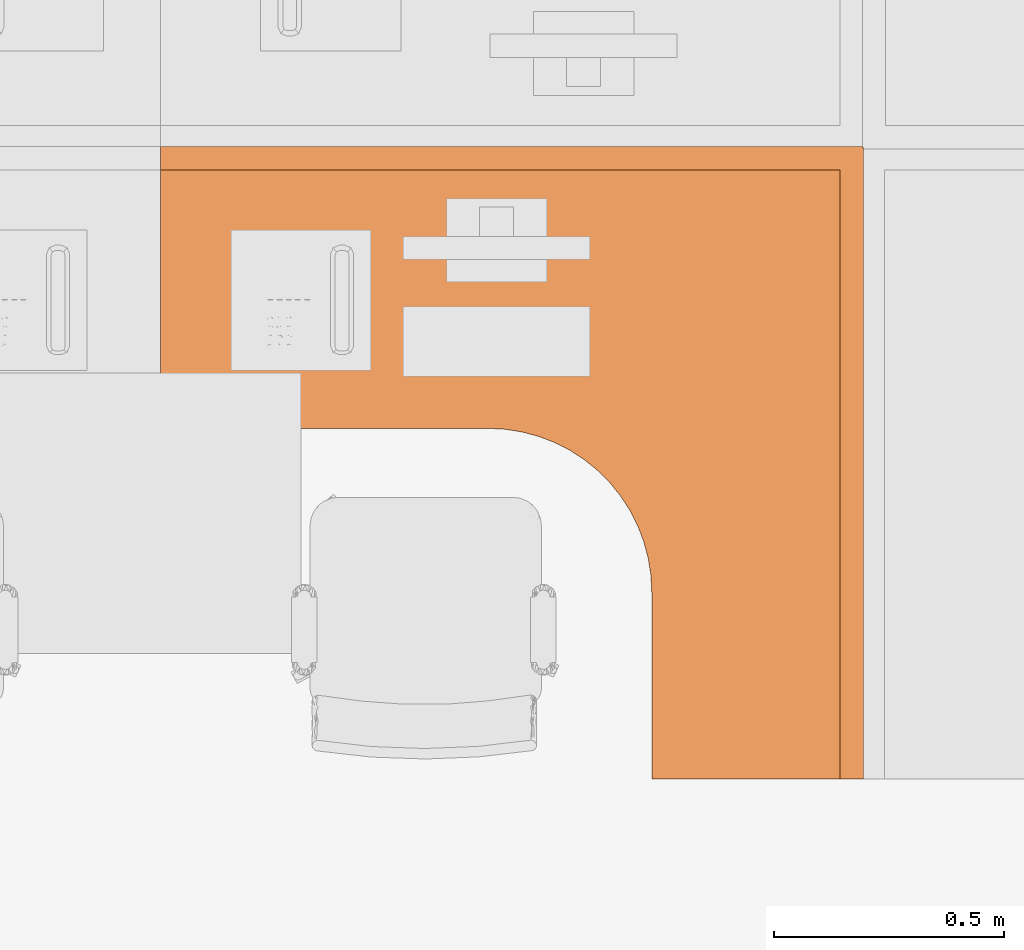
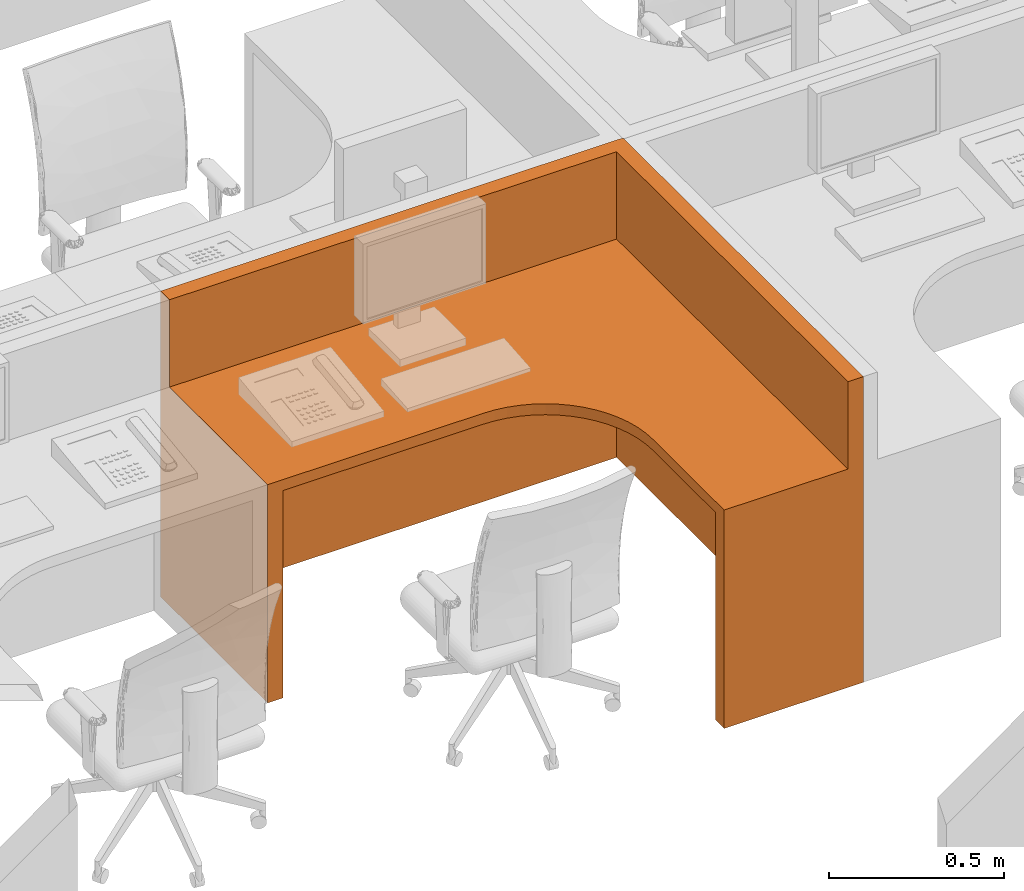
# One storey, part 27 of 142: 1 proxy.
"""IFC2X3 building model written with IfcOpenShell, lengths in feet."""

from ifc_helpers import new_model, entity, si_unit, converted_unit, derived_unit, direction, frame, frame_2d, origin, origin_2d_with_axis, place, context, subcontext, project, spatial, polyline, circle_curve, parameter, trimmed, segment, composite_curve, rectangle, outline, extrude, source, transform, mapped, type_object, type_shapes, element, save


model = new_model("IFC2X3")

# Units and contexts
model_context = context("Model", 3, precision=0.0001, world=origin(), true_north=direction((6.12303176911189e-17, 1.0)))
body_context = subcontext(model_context, "Body", "Model", "MODEL_VIEW")
ifc_project = project(units=[converted_unit("LENGTHUNIT", "FOOT", entity("IfcRatioMeasure", 0.3048), si_unit("LENGTHUNIT", "METRE"), dimensions=[1, 0, 0, 0, 0, 0, 0]), converted_unit("AREAUNIT", "SQUARE FOOT", entity("IfcRatioMeasure", 0.09290304), si_unit("AREAUNIT", "SQUARE_METRE"), dimensions=[2, 0, 0, 0, 0, 0, 0]), converted_unit("VOLUMEUNIT", "CUBIC FOOT", entity("IfcRatioMeasure", 0.028316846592), si_unit("VOLUMEUNIT", "CUBIC_METRE"), dimensions=[3, 0, 0, 0, 0, 0, 0]), converted_unit("PLANEANGLEUNIT", "DEGREE", entity("IfcRatioMeasure", 0.0174532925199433), si_unit("PLANEANGLEUNIT", "RADIAN"), dimensions=[0, 0, 0, 0, 0, 0, 0]), si_unit("MASSUNIT", "GRAM", prefix="KILO"), derived_unit("MASSDENSITYUNIT", [(si_unit("MASSUNIT", "GRAM", prefix="KILO"), 1), (si_unit("LENGTHUNIT", "METRE"), -3)]), si_unit("TIMEUNIT", "SECOND"), si_unit("FREQUENCYUNIT", "HERTZ"), si_unit("THERMODYNAMICTEMPERATUREUNIT", "DEGREE_CELSIUS"), derived_unit("THERMALTRANSMITTANCEUNIT", [(si_unit("MASSUNIT", "GRAM", prefix="KILO"), 1), (si_unit("THERMODYNAMICTEMPERATUREUNIT", "KELVIN"), -1), (si_unit("TIMEUNIT", "SECOND"), -3)]), derived_unit("VOLUMETRICFLOWRATEUNIT", [(si_unit("LENGTHUNIT", "METRE"), 3), (si_unit("TIMEUNIT", "SECOND"), -1)]), si_unit("ELECTRICCURRENTUNIT", "AMPERE"), si_unit("ELECTRICVOLTAGEUNIT", "VOLT"), si_unit("POWERUNIT", "WATT"), si_unit("FORCEUNIT", "NEWTON"), si_unit("ILLUMINANCEUNIT", "LUX"), si_unit("LUMINOUSFLUXUNIT", "LUMEN"), si_unit("LUMINOUSINTENSITYUNIT", "CANDELA"), derived_unit("USERDEFINED", [(si_unit("MASSUNIT", "GRAM", prefix="KILO"), -1), (si_unit("LENGTHUNIT", "METRE"), -2), (si_unit("TIMEUNIT", "SECOND"), 3), (si_unit("LUMINOUSFLUXUNIT", "LUMEN"), 1)]), derived_unit("LINEARVELOCITYUNIT", [(si_unit("LENGTHUNIT", "METRE"), 1), (si_unit("TIMEUNIT", "SECOND"), -1)]), si_unit("PRESSUREUNIT", "PASCAL"), derived_unit("USERDEFINED", [(si_unit("LENGTHUNIT", "METRE"), -2), (si_unit("MASSUNIT", "GRAM", prefix="KILO"), 1), (si_unit("TIMEUNIT", "SECOND"), -2)])], contexts=[model_context])

# Site, building, storey, space
site_placement = place(None, origin())
site = spatial("IfcSite", under=ifc_project, at=site_placement, Name="Default", CompositionType="ELEMENT")
building_placement = place(site_placement, origin())
building = spatial("IfcBuilding", under=site, at=building_placement, Name="OUTPATIENT / PACT CLINIC (Ch. 265)", CompositionType="ELEMENT")
storey_placement = place(building_placement, origin())
storey = spatial("IfcBuildingStorey", under=building, at=storey_placement, Name="LEVEL 1", CompositionType="ELEMENT", Elevation=0.0)
space_placement = place(storey_placement, origin())
space = spatial("IfcSpace", under=storey, at=space_placement, Name="WRTM1", CompositionType="ELEMENT", InteriorOrExteriorSpace="INTERNAL")

# Proxy
building_element_proxy_type = type_object("IfcBuildingElementProxyType", Name="U0075 - Workstation, L-Shaped, Freestanding, 60x54", PredefinedType="NOTDEFINED")
shared_shape = source(origin(), body_context, "Body", "SweptSolid", [
    extrude(rectangle(XDim=0.166666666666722, YDim=2.0, at=frame_2d((-1.3836154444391e-14, 0.0), x_axis=(1.0, 0.0))), frame((0.0833333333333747, -1.0, 0.0), z_axis=(0.0, 0.0, 1.0), x_axis=(-1.0, 0.0, 0.0)), (0.0, 0.0, 1.0), 2.375),
    extrude(rectangle(XDim=0.166666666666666, YDim=1.5, at=frame_2d((0.0, -4.44089209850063e-16), x_axis=(1.0, 0.0))), frame((4.25000000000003, -4.41666666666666, 0.0), z_axis=(0.0, 0.0, 1.0), x_axis=(0.0, 1.0, 0.0)), (0.0, 0.0, 1.0), 2.37499999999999),
    extrude(outline(composite_curve([segment(polyline([(-2.23809523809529, -2.3095238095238), (2.7619047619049, -2.3095238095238)]), True, "CONTINUOUS"), segment(polyline([(2.7619047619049, -2.3095238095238), (2.7619047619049, -0.309523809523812)]), True, "CONTINUOUS"), segment(polyline([(2.7619047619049, -0.309523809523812), (0.428571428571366, -0.309523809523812)]), True, "CONTINUOUS"), segment(trimmed(circle_curve(frame_2d((0.428571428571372, 0.857142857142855), x_axis=(1.0, 0.0)), 1.16666666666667), [parameter(180.0)], [parameter(270.0)], True, "PARAMETER"), False, "CONTINUOUS"), segment(polyline([(-0.738095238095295, 0.857142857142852), (-0.738095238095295, 2.19047619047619)]), True, "CONTINUOUS"), segment(polyline([(-0.738095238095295, 2.19047619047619), (-2.23809523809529, 2.19047619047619)]), True, "CONTINUOUS"), segment(polyline([(-2.23809523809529, 2.19047619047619), (-2.23809523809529, -2.3095238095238)]), True, "CONTINUOUS")], self_intersect=False)), frame((2.76190476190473, -2.30952380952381, 2.37499999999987), z_axis=(0.0, 0.0, 1.0), x_axis=(-1.0, 0.0, 0.0)), (0.0, 0.0, 1.0), 0.125),
    extrude(outline(polyline([(-2.16666666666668, -2.16666666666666), (2.83333333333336, -2.16666666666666), (2.83333333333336, -0.16666666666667), (-0.666666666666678, -0.16666666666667), (-0.666666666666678, 2.33333333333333), (-2.16666666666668, 2.33333333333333), (-2.16666666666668, -2.16666666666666)])), frame((2.83333333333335, -2.16666666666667, 2.37499999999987), z_axis=(0.0, 0.0, 1.0), x_axis=(-1.0, 0.0, 0.0)), (0.0, 0.0, 1.0), 0.125),
    extrude(rectangle(XDim=5.00000000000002, YDim=0.166666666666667, at=origin_2d_with_axis()), frame((2.49999999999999, -0.075000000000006, 0.0), z_axis=(0.0, 0.0, 1.0), x_axis=(-1.0, 0.0, 0.0)), (0.0, 0.0, 1.0), 3.5),
    extrude(rectangle(XDim=4.50000000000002, YDim=0.166666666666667, at=frame_2d((0.0, 4.44089209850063e-16), x_axis=(1.0, 0.0))), frame((4.92500000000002, -2.25000000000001, 0.0), z_axis=(0.0, 0.0, 1.0), x_axis=(0.0, 1.0, 0.0)), (0.0, 0.0, 1.0), 3.5),
])
type_shapes(building_element_proxy_type, [shared_shape])
proxy_placement = place(space_placement, frame((414.359283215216, -922.628851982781, 0.0)))
element("IfcBuildingElementProxy", 1, at=proxy_placement, inside=space, type_object=building_element_proxy_type, Name="U0075 - Workstation, L-Shaped, Freestanding, 60x54:U0075 - Workstation, L-Shaped, Freestanding, 60x54", ObjectType="U0075 - Workstation, L-Shaped, Freestanding, 60x54", context=body_context, shape_type="MappedRepresentation", body=[
    mapped(shared_shape, transform((0.0, 0.0, 0.0), scale=1.0)),
])

save(model, "model.ifc")
